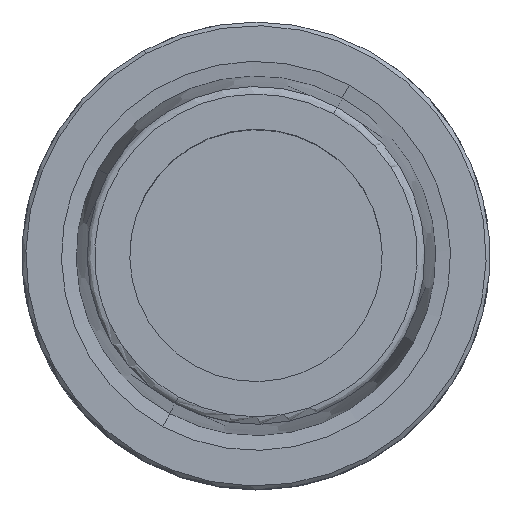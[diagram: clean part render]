
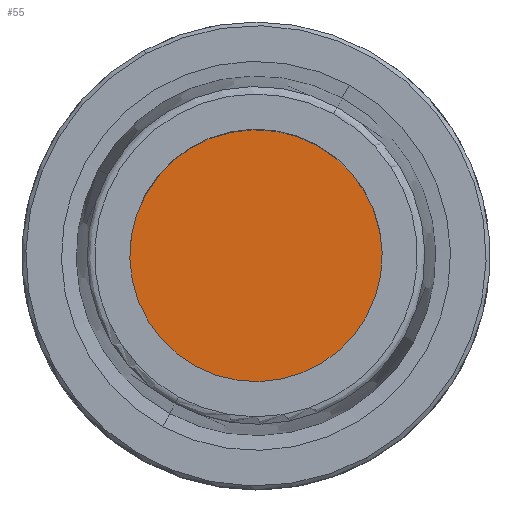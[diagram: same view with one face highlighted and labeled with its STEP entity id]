
A CAD part, top view. The second image highlights one B-rep face of the part: STEP entity #55.
In plain terms, the highlighted planar face has unit normal (0, 0, 1).
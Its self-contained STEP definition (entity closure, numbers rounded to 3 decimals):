
#35=AXIS2_PLACEMENT_3D('Plane Axis2P3D',#32,#33,#34) ;
#39=AXIS2_PLACEMENT_3D('Circle Axis2P3D',#37,#38,$) ;
#48=AXIS2_PLACEMENT_3D('Circle Axis2P3D',#46,#47,$) ;
#32=CARTESIAN_POINT('Axis2P3D Location',(0.,15.75,-10.)) ;
#37=CARTESIAN_POINT('Axis2P3D Location',(0.,0.,-10.)) ;
#41=CARTESIAN_POINT('Vertex',(-8.15,-14.919,-10.)) ;
#43=CARTESIAN_POINT('Vertex',(8.15,14.919,-10.)) ;
#46=CARTESIAN_POINT('Axis2P3D Location',(0.,0.,-10.)) ;
#33=DIRECTION('Axis2P3D Direction',(0.,0.,-1.)) ;
#34=DIRECTION('Axis2P3D XDirection',(1.,0.,0.)) ;
#38=DIRECTION('Axis2P3D Direction',(0.,0.,-1.)) ;
#47=DIRECTION('Axis2P3D Direction',(0.,0.,-1.)) ;
#52=ORIENTED_EDGE('',*,*,#45,.F.) ;
#53=ORIENTED_EDGE('',*,*,#50,.F.) ;
#55=ADVANCED_FACE('NOCUT',(#54),#36,.F.) ;
#40=CIRCLE('generated circle',#39,17.) ;
#49=CIRCLE('generated circle',#48,17.) ;
#45=EDGE_CURVE('',#42,#44,#40,.T.) ;
#50=EDGE_CURVE('',#44,#42,#49,.T.) ;
#51=EDGE_LOOP('',(#52,#53)) ;
#54=FACE_OUTER_BOUND('',#51,.T.) ;
#36=PLANE('',#35) ;
#42=VERTEX_POINT('',#41) ;
#44=VERTEX_POINT('',#43) ;
